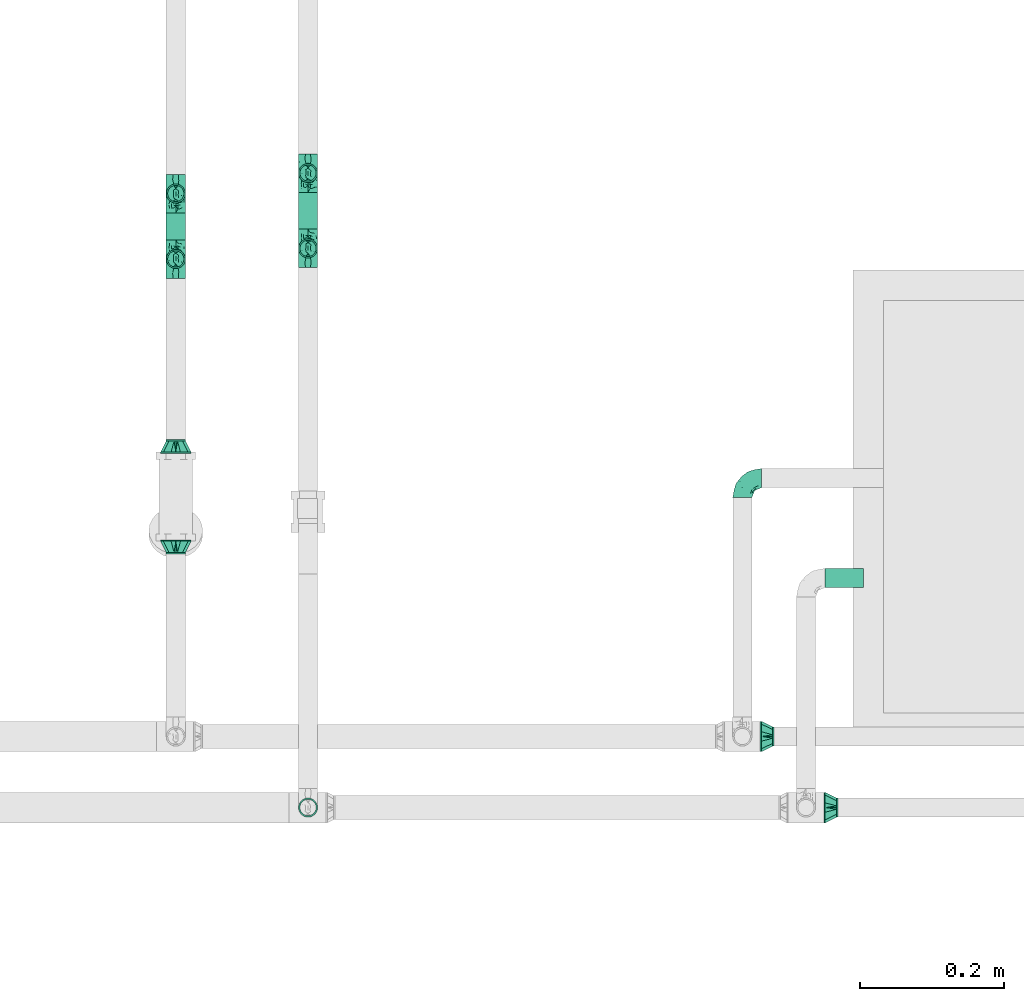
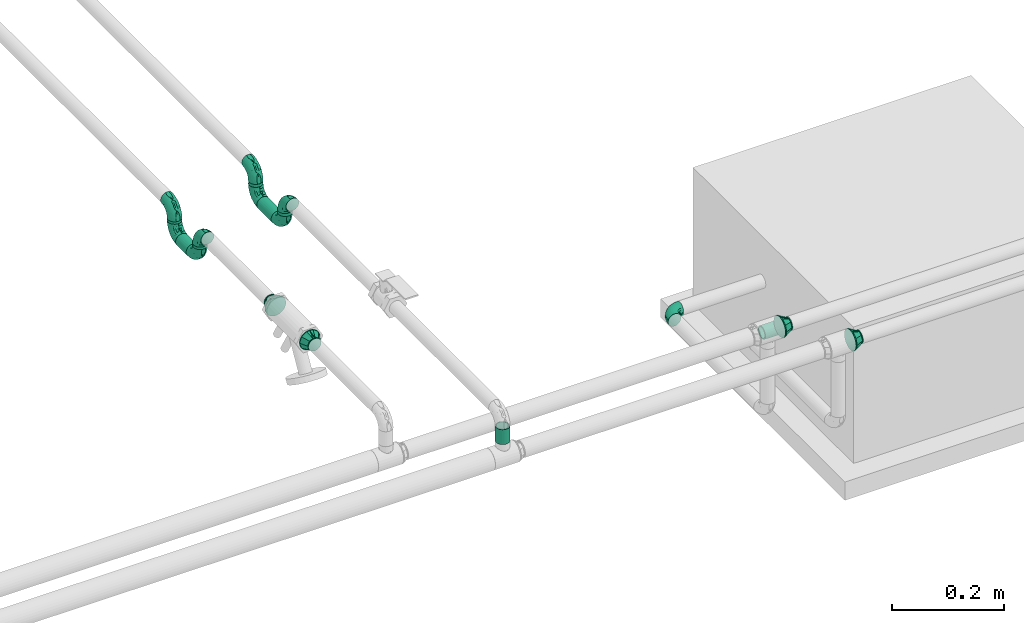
# One storey, part 20 of 35: 13 flow fittings, 8 flow segments.
"""IFC2X3 building model written with IfcOpenShell, lengths in millimetres."""

from ifc_helpers import new_model, entity, si_unit, converted_unit, derived_unit, direction, frame, origin_with_axes, origin_2d_with_axis, place, context, subcontext, project, spatial, hollow_circle, extrude, open_shell, surface_model, source, transform, mapped, type_object, element, save


model = new_model("IFC2X3")

# Units and contexts
model_context = context("Model", 3, precision=0.01, world=frame((0.0, 4.29681676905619e-09, 0.0)), true_north=direction((4.01073788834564e-13, 1.0)))
plan_context = context("Plan", 3, precision=0.01, world=frame((0.0, 4.29681676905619e-09, 0.0)), true_north=direction((4.01073788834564e-13, 1.0)))
body_context = subcontext(model_context, "Body", "Model", "MODEL_VIEW")
ifc_project = project(units=[converted_unit("PLANEANGLEUNIT", "DEGREE", entity("IfcPositiveLengthMeasure", 0.0174532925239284), si_unit("PLANEANGLEUNIT", "RADIAN"), dimensions=[0, 0, 0, 0, 0, 0, 0]), si_unit("AREAUNIT", "SQUARE_METRE"), si_unit("LENGTHUNIT", "METRE", prefix="MILLI"), si_unit("MASSUNIT", "GRAM", prefix="KILO"), si_unit("POWERUNIT", "WATT"), si_unit("PRESSUREUNIT", "PASCAL"), si_unit("FORCEUNIT", "NEWTON", prefix="KILO"), si_unit("ELECTRICVOLTAGEUNIT", "VOLT"), si_unit("ELECTRICCURRENTUNIT", "AMPERE"), si_unit("THERMODYNAMICTEMPERATUREUNIT", "DEGREE_CELSIUS"), si_unit("TIMEUNIT", "SECOND"), si_unit("VOLUMEUNIT", "CUBIC_METRE"), derived_unit("LINEARVELOCITYUNIT", [(si_unit("LENGTHUNIT", "METRE"), 1), (si_unit("TIMEUNIT", "SECOND"), -1)]), derived_unit("VOLUMETRICFLOWRATEUNIT", [(si_unit("VOLUMEUNIT", "CUBIC_METRE"), 1), (si_unit("TIMEUNIT", "SECOND"), -1)]), derived_unit("THERMALTRANSMITTANCEUNIT", [(si_unit("POWERUNIT", "WATT"), 1), (si_unit("THERMODYNAMICTEMPERATUREUNIT", "KELVIN"), -1), (si_unit("AREAUNIT", "SQUARE_METRE"), -1)]), derived_unit("SOUNDPRESSUREUNIT", [(si_unit("PRESSUREUNIT", "PASCAL"), 1)])], contexts=[model_context, plan_context])

# Site, building, storey
site_placement = place(None, frame((0.0, -4.29681676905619e-09, 0.0), z_axis=(0.0, 0.0, 1.0), x_axis=(1.0, 0.0, 0.0)))
site = spatial("IfcSite", under=ifc_project, at=site_placement, Name="ENGM", CompositionType="ELEMENT")
building_placement = place(site_placement, frame((0.0, 4.29681676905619e-09, 0.0), z_axis=(0.0, 0.0, 1.0), x_axis=(1.0, 0.0, 0.0)))
building = spatial("IfcBuilding", under=site, at=building_placement, Name="TH", CompositionType="ELEMENT")
storey_placement = place(building_placement, frame((0.0, 0.0, 210200.0), z_axis=(0.0, 0.0, 1.0), x_axis=(1.0, 0.0, 0.0)))
storey = spatial("IfcBuildingStorey", under=building, at=storey_placement, Name="Nivå F - 0,7 m", CompositionType="ELEMENT", Elevation=210200.0)

# Flow fittings
pipe_fitting_type_1 = type_object("IfcPipeFittingType", Name="magi_pipe_fe_elbow_short_001", PredefinedType="BEND")
shared_shape_1 = source(origin_with_axes(), body_context, "Body", "SurfaceModel", [
    surface_model("IfcShellBasedSurfaceModel", [(-26.8, 0.0, -13.4), (-26.8, -12.94341, -3.46818), (-26.8, 3.46818, -12.94341), (-26.8, 6.7, -11.60474), (-26.8, 9.47523, -9.47523), (-26.8, 11.60474, -6.7), (-26.8, 11.60474, 6.7), (-26.8, -9.47523, -9.47523), (-26.8, -6.7, -11.60474), (-26.8, -3.46818, -12.94341), (-26.8, -11.60474, -6.7), (-26.8, -13.4, 0.0), (-26.8, -12.94341, 3.46818), (-26.8, 12.94341, -3.46818), (-26.8, 12.94341, 3.46818), (-26.8, 3.46818, 12.94341), (-26.8, 6.7, 11.60474), (-26.8, 9.47523, 9.47523), (-26.8, -6.7, 11.60474), (-26.8, -11.60474, 6.7), (-26.8, -9.47523, 9.47523), (-26.8, -3.46818, 12.94341), (-26.8, 0.0, 13.4), (-26.8, 13.4, 0.0), (-3.46818, 26.8, -12.94341), (12.94341, 26.8, -3.46818), (0.0, 26.8, -13.4), (-9.47523, 26.8, -9.47523), (-6.7, 26.8, -11.60474), (-11.60474, 26.8, -6.7), (-11.60474, 26.8, 6.7), (6.7, 26.8, -11.60474), (9.47523, 26.8, -9.47523), (3.46818, 26.8, -12.94341), (11.60474, 26.8, -6.7), (12.94341, 26.8, 3.46818), (13.4, 26.8, 0.0), (-13.4, 26.8, 0.0), (-12.94341, 26.8, -3.46818), (-12.94341, 26.8, 3.46818), (-9.47523, 26.8, 9.47523), (-6.7, 26.8, 11.60474), (-3.46818, 26.8, 12.94341), (6.7, 26.8, 11.60474), (9.47523, 26.8, 9.47523), (11.60474, 26.8, 6.7), (3.46818, 26.8, 12.94341), (0.0, 26.8, 13.4), (-17.94383, -11.72186, 4.19396), (-19.61933, -10.40522, 7.51874), (-14.00394, -9.97131, 0.0), (-10.88146, -9.75217, 2.96415), (5.6402, 4.14256, 4.06277), (2.9355, 3.86758, 7.99817), (-0.16552, -0.70254, 6.90229), (-11.69279, -8.47867, 6.74741), (-3.60975, -5.23517, 4.12915), (-20.40197, -11.68565, 0.0), (6.07727, 10.7767, 9.16668), (7.71917, 17.5318, 9.98024), (3.23022, 10.34855, 11.14395), (-17.5318, -7.71917, 9.98024), (-19.6814, -5.06542, 12.05518), (-20.47091, -1.77513, 13.17083), (-18.76435, 2.05404, 13.37716), (-10.34855, -3.23022, 11.14395), (-13.34095, -0.12025, 12.98799), (-20.6562, 5.25542, 12.65822), (-21.01515, 11.15223, 8.78653), (-19.1981, 14.0055, 6.12639), (-23.45804, 12.58298, 5.55254), (-13.79572, 19.62699, 6.0655), (-4.65712, 13.17755, 13.37596), (-9.92557, 9.92557, 13.07441), (-7.97904, 5.85569, 13.33097), (-14.12498, 14.96497, 9.49183), (-23.18377, 8.11481, 10.91864), (-3.49778, 8.97497, 13.15743), (-6.65819, 2.45826, 12.5129), (-1.36893, 7.23965, 12.31444), (-22.3163, 13.71444, 3.37662), (-20.76788, 15.89859, 0.0), (-5.00198, 23.11411, 12.55149), (-1.83653, 20.04451, 13.36709), (5.06542, 19.6814, 12.05518), (-4.60225, -3.19632, 8.30444), (-2.39362, 2.39362, 10.95564), (1.77513, 20.47091, 13.17083), (10.40522, 19.61933, 7.51874), (8.47867, 11.69279, 6.74741), (11.72186, 17.94383, 4.19396), (-10.7767, -6.07727, 9.16668), (-14.71477, 20.20527, 3.11661), (-18.32912, 15.92283, 3.19527), (9.75217, 10.88146, 2.96415), (9.97131, 14.00394, 0.0), (11.68565, 20.40197, 0.0), (-17.32477, 17.32477, 0.0), (8.01422, 6.7, 0.0), (-11.0099, 17.80242, 10.25412), (-8.46783, 20.75346, 11.10693), (-11.06207, 21.36651, 8.74797), (-10.13559, 14.48567, 11.94159), (-5.79525, 18.15733, 12.76163), (-14.31139, 12.02432, 11.13575), (-6.7, -8.01422, 0.0), (-14.72492, 5.73985, 13.1602), (-13.14892, 3.28357, 13.39428), (-14.24576, 9.09225, 12.39421), (-7.80572, 13.90987, 12.83655), (0.12025, 13.34095, 12.98799), (-18.45241, 9.09615, 11.28418), (-1.02036, 0.84565, 9.15855), (-3.66591, -4.13183, 6.30134), (-3.02144, -4.33567, 0.0), (1.56761, -1.1228, 3.23127), (-15.89859, 20.76788, 0.0), (4.33567, 3.02144, 0.0), (0.65711, -0.65711, 0.0), (-21.21323, 1.69434, -13.35639), (-11.59215, 19.61477, -8.94181), (-19.9553, -12.05444, -4.41231), (-20.61911, 5.26132, -12.65979), (-18.29002, 15.89425, -3.37935), (-10.94714, -3.38176, -11.24231), (-11.6358, -0.16715, -12.74497), (-5.38395, -0.22423, -10.97991), (-19.45447, 8.78609, -11.20697), (-21.18665, 11.10723, -8.76769), (8.05635, 19.80434, -10.14754), (-16.16073, 12.27967, -10.10626), (-10.65974, -9.81032, -2.24682), (-4.63434, -6.26604, -3.21731), (-12.41035, 15.57424, -10.31822), (-9.54276, 16.38525, -11.6371), (-12.38435, 12.38435, -11.76567), (-1.18054, -2.52878, -5.66699), (1.17703, 2.36499, -8.51656), (4.94456, 3.94062, -5.27361), (-13.23013, 7.7548, -12.95755), (-18.92609, -10.30887, -7.4546), (-19.80434, -8.05635, -10.14754), (-5.46999, 19.49566, -12.70683), (12.05444, 19.9553, -4.41231), (-22.63124, -5.28269, -12.19553), (-11.57403, -7.91736, -7.4927), (-10.00514, -5.4662, -9.37392), (0.56412, 6.29454, -11.17498), (0.16715, 11.6358, -12.74497), (2.76952, 11.43973, -11.70622), (-22.71135, 13.83144, -2.294), (-13.13887, 21.26515, -5.84046), (-14.02683, 21.74629, -2.98452), (10.30887, 18.92609, -7.4546), (-4.73052, 4.73052, -12.6532), (-16.28385, 15.93209, -6.57302), (-1.69434, 21.21323, -13.35639), (-8.4106, 21.03687, -11.08508), (1.68957, 19.74249, -13.15499), (5.28269, 22.63124, -12.19553), (-19.74249, -1.68957, -13.15499), (-16.96978, -4.62448, -11.91765), (-3.16773, 14.76219, -13.39711), (-7.24575, 7.81916, -13.39239), (-7.92886, 12.7032, -13.00116), (-6.57993, -6.26304, -6.05124), (9.46363, 9.95483, -2.39006), (6.59847, 4.89531, -2.6225), (0.29079, -2.47661, -2.876), (-21.42347, 13.17132, -5.65321), (9.35918, 11.66841, -5.08525), (8.33374, 12.94014, -7.69724), (5.4662, 10.00514, -9.37392), (4.62448, 16.96978, -11.91765), (-3.89324, -2.60816, -8.35445), (5.97121, 7.49007, -7.29975), (-14.76219, 3.16773, -13.39711), (-15.36238, 22.06238, 0.0), (-11.66841, -9.35918, -5.08525), (3.63632, 1.19488, -3.35093), (-14.94382, 15.17624, -8.6945)], [open_shell([[[0, 1, 2]], [[3, 2, 4]], [[5, 2, 1]], [[4, 2, 5]], [[5, 1, 6]], [[7, 1, 8]], [[0, 9, 8]], [[10, 1, 7]], [[8, 1, 0]], [[11, 12, 1]], [[13, 5, 14]], [[5, 6, 14]], [[1, 15, 6]], [[15, 16, 17]], [[6, 15, 17]], [[1, 18, 15]], [[19, 20, 12]], [[18, 12, 20]], [[18, 21, 15]], [[18, 1, 12]], [[15, 21, 22]], [[14, 23, 13]], [[24, 25, 26]], [[27, 24, 28]], [[25, 24, 29]], [[29, 24, 27]], [[30, 25, 29]], [[31, 25, 32]], [[31, 33, 26]], [[32, 25, 34]], [[26, 25, 31]], [[25, 35, 36]], [[37, 29, 38]], [[39, 30, 29]], [[30, 40, 25]], [[40, 41, 42]], [[42, 25, 40]], [[43, 25, 42]], [[35, 44, 45]], [[44, 35, 43]], [[42, 46, 43]], [[35, 25, 43]], [[47, 46, 42]], [[39, 29, 37]], [[48, 49, 19]], [[48, 50, 51]], [[52, 53, 54]], [[55, 51, 56]], [[49, 20, 19]], [[57, 48, 12]], [[58, 59, 60]], [[61, 18, 20]], [[61, 62, 18]], [[22, 63, 64]], [[62, 65, 66]], [[59, 44, 43]], [[22, 21, 63]], [[67, 16, 15]], [[68, 69, 70]], [[30, 39, 71]], [[72, 73, 74]], [[69, 68, 75]], [[22, 64, 15]], [[16, 76, 17]], [[6, 17, 68]], [[77, 78, 79]], [[80, 81, 23]], [[42, 82, 83]], [[43, 84, 59]], [[85, 86, 65]], [[46, 47, 87]], [[88, 89, 90]], [[91, 65, 61]], [[47, 42, 83]], [[71, 92, 93]], [[90, 94, 95]], [[84, 43, 46]], [[88, 90, 45]], [[59, 84, 60]], [[35, 45, 90]], [[75, 71, 69]], [[18, 62, 21]], [[90, 96, 35]], [[97, 81, 93]], [[94, 98, 95]], [[92, 97, 93]], [[50, 48, 57]], [[70, 14, 6]], [[99, 100, 101]], [[40, 101, 100]], [[41, 40, 100]], [[102, 103, 100]], [[103, 72, 83]], [[82, 100, 103]], [[82, 42, 41]], [[99, 104, 102]], [[23, 14, 80]], [[67, 15, 64]], [[51, 50, 105]], [[48, 19, 12]], [[49, 55, 61]], [[45, 44, 88]], [[89, 52, 94]], [[106, 107, 74]], [[108, 67, 106]], [[40, 30, 101]], [[103, 102, 109]], [[103, 109, 72]], [[87, 83, 110]], [[76, 68, 17]], [[68, 111, 104]], [[65, 62, 61]], [[63, 62, 66]], [[91, 61, 55]], [[65, 86, 78]], [[87, 84, 46]], [[110, 79, 60]], [[110, 60, 84]], [[86, 112, 60]], [[55, 49, 48]], [[61, 20, 49]], [[44, 59, 88]], [[89, 88, 59]], [[106, 67, 64]], [[76, 67, 111]], [[53, 52, 89]], [[112, 86, 85]], [[56, 113, 55]], [[112, 54, 53]], [[58, 89, 59]], [[56, 51, 105]], [[114, 115, 56]], [[14, 70, 80]], [[69, 71, 93]], [[37, 116, 92]], [[92, 116, 97]], [[30, 71, 101]], [[75, 101, 71]], [[99, 102, 100]], [[108, 104, 111]], [[106, 74, 73]], [[110, 83, 72]], [[78, 74, 66]], [[72, 74, 77]], [[83, 87, 47]], [[84, 87, 110]], [[62, 63, 21]], [[64, 63, 66]], [[12, 11, 57]], [[96, 90, 95]], [[96, 36, 35]], [[115, 117, 52]], [[56, 105, 114]], [[55, 48, 51]], [[89, 94, 90]], [[52, 98, 94]], [[106, 64, 107]], [[108, 106, 73]], [[102, 108, 73]], [[67, 108, 111]], [[102, 104, 108]], [[68, 104, 75]], [[64, 66, 107]], [[66, 74, 107]], [[65, 78, 66]], [[79, 78, 86]], [[60, 79, 86]], [[77, 79, 110]], [[72, 77, 110]], [[78, 77, 74]], [[67, 76, 16]], [[68, 76, 111]], [[100, 82, 41]], [[83, 82, 103]], [[68, 70, 6]], [[80, 69, 93]], [[69, 80, 70]], [[80, 93, 81]], [[55, 85, 91]], [[85, 65, 91]], [[60, 53, 58]], [[53, 89, 58]], [[54, 112, 85]], [[60, 112, 53]], [[85, 113, 54]], [[113, 115, 54]], [[55, 113, 85]], [[115, 113, 56]], [[71, 39, 92]], [[115, 114, 118]], [[37, 92, 39]], [[101, 75, 99]], [[99, 75, 104]], [[102, 73, 109]], [[72, 109, 73]], [[54, 115, 52]], [[117, 115, 118]], [[117, 98, 52]], [[2, 119, 0]], [[29, 27, 120]], [[121, 57, 1]], [[3, 122, 2]], [[97, 123, 81]], [[124, 125, 126]], [[127, 4, 128]], [[32, 129, 31]], [[127, 128, 130]], [[131, 132, 105]], [[133, 134, 135]], [[127, 3, 4]], [[136, 137, 138]], [[139, 122, 127]], [[4, 5, 128]], [[10, 140, 121]], [[141, 140, 7]], [[24, 142, 28]], [[95, 143, 96]], [[144, 8, 9]], [[145, 141, 146]], [[25, 36, 96]], [[147, 148, 149]], [[140, 10, 7]], [[23, 81, 150]], [[130, 133, 135]], [[151, 152, 38]], [[153, 34, 143]], [[147, 154, 148]], [[38, 29, 151]], [[120, 155, 151]], [[32, 153, 129]], [[26, 156, 24]], [[24, 156, 142]], [[143, 34, 25]], [[27, 28, 157]], [[123, 152, 155]], [[158, 33, 159]], [[144, 160, 161]], [[122, 3, 127]], [[148, 162, 158]], [[157, 28, 142]], [[162, 163, 164]], [[159, 33, 31]], [[165, 136, 132]], [[34, 153, 32]], [[166, 98, 167]], [[160, 9, 0]], [[161, 160, 125]], [[95, 166, 143]], [[50, 131, 105]], [[121, 1, 10]], [[168, 114, 132]], [[150, 169, 13]], [[167, 98, 117]], [[33, 158, 26]], [[164, 142, 162]], [[133, 157, 134]], [[7, 8, 141]], [[165, 145, 146]], [[170, 171, 153]], [[129, 172, 173]], [[126, 137, 174]], [[175, 137, 172]], [[148, 158, 173]], [[156, 158, 162]], [[149, 172, 147]], [[148, 154, 163]], [[119, 160, 0]], [[176, 163, 125]], [[176, 125, 160]], [[125, 154, 126]], [[169, 128, 5]], [[127, 130, 135]], [[139, 127, 135]], [[119, 122, 176]], [[120, 151, 29]], [[152, 97, 177]], [[142, 164, 134]], [[120, 27, 157]], [[152, 37, 38]], [[81, 123, 150]], [[123, 155, 169]], [[152, 123, 97]], [[140, 178, 121]], [[121, 178, 131]], [[144, 141, 8]], [[146, 141, 161]], [[25, 96, 143]], [[170, 153, 143]], [[129, 153, 171]], [[159, 129, 173]], [[137, 147, 172]], [[126, 154, 147]], [[172, 171, 175]], [[174, 137, 136]], [[137, 126, 147]], [[126, 146, 124]], [[117, 118, 179]], [[179, 138, 167]], [[128, 169, 155]], [[5, 13, 169]], [[57, 121, 50]], [[57, 11, 1]], [[122, 119, 2]], [[160, 119, 176]], [[158, 156, 26]], [[142, 156, 162]], [[162, 148, 163]], [[139, 135, 164]], [[125, 163, 154]], [[139, 163, 176]], [[163, 139, 164]], [[122, 139, 176]], [[155, 180, 128]], [[180, 120, 133]], [[180, 133, 130]], [[157, 133, 120]], [[142, 134, 157]], [[164, 135, 134]], [[128, 180, 130]], [[120, 180, 155]], [[152, 151, 155]], [[37, 152, 177]], [[169, 150, 123]], [[23, 150, 13]], [[121, 131, 50]], [[178, 165, 132]], [[178, 132, 131]], [[168, 132, 136]], [[145, 165, 178]], [[174, 165, 146]], [[178, 140, 145]], [[141, 145, 140]], [[179, 136, 138]], [[170, 166, 167]], [[168, 179, 118]], [[170, 167, 138]], [[143, 166, 170]], [[95, 98, 166]], [[117, 179, 167]], [[136, 179, 168]], [[129, 159, 31]], [[158, 159, 173]], [[160, 144, 9]], [[141, 144, 161]], [[175, 170, 138]], [[129, 171, 172]], [[170, 175, 171]], [[137, 175, 138]], [[148, 173, 149]], [[172, 149, 173]], [[165, 174, 136]], [[126, 174, 146]], [[146, 161, 124]], [[125, 124, 161]], [[114, 168, 118]], [[114, 105, 132]]])]),
])
for number, where, z_axis, x_axis, name in (
    (1, (900826.07965, 481655.36097, 2800.0), (0.0, 0.0, 1.0), (-1.0, 0.0, 0.0), "magi_pipe_fe_elbow_short_001"),
    (2, (900037.00487, 482051.61097, 3070.04999999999), (1.0, 0.0, 0.0), (0.0, -1.0, 0.0), "magi_pipe_fe_elbow_short_001"),
    (3, (900037.00487, 482051.61097, 3011.29999999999), (-1.0, 0.0, 0.0), (0.0, 3.999999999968e-06, -0.999999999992), "magi_pipe_fe_elbow_short_001"),
    (4, (900037.00487, 481960.36097, 3011.29999999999), (-1.0, 0.0, 0.0), (0.0, -1.0, 0.0), "magi_pipe_fe_elbow_short_001"),
    (5, (900037.00487, 481960.36097, 3070.04999999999), (1.0, 0.0, 0.0), (0.0, 0.0, 1.0), "magi_pipe_fe_elbow_short_001"),
    (6, (900221.2, 482080.17011, 3070.04999999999), (1.0, 0.0, 0.0), (0.0, -1.0, 0.0), "magi_pipe_fe_elbow_short_001"),
    (7, (900221.2, 482080.17011, 3010.04999999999), (-1.0, 0.0, 0.0), (0.0, 3.999999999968e-06, -0.999999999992), "magi_pipe_fe_elbow_short_001"),
    (8, (900221.2, 481975.17011, 3010.04999999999), (-1.0, 0.0, 0.0), (0.0, -1.0, 0.0), "magi_pipe_fe_elbow_short_001"),
    (9, (900221.2, 481975.17011, 3070.04999999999), (1.0, 0.0, 0.0), (0.0, 0.0, 1.0), "magi_pipe_fe_elbow_short_001"),
):
    element("IfcFlowFitting", number, at=place(storey_placement, frame(where, z_axis=z_axis, x_axis=x_axis)), inside=storey, type_object=pipe_fitting_type_1, Name=name, context=body_context, shape_type="MappedRepresentation", body=[
        mapped(shared_shape_1, transform((0.0, 0.0, 0.0), scale=1.0)),
    ])
pipe_fitting_type_2 = type_object("IfcPipeFittingType", Name="magi_pipe_fe_reducer_centric_short_NOR", PredefinedType="TRANSITION")
shared_shape_2 = source(origin_with_axes(), body_context, "Body", "SurfaceModel", [
    surface_model("IfcShellBasedSurfaceModel", [(-2.0, 0.0, 21.2), (-2.0, 5.48696, 20.47763), (-2.0, 10.6, 18.35974), (-2.0, 14.99066, 14.99066), (-2.0, 18.35974, 10.6), (-2.0, 20.47763, 5.48696), (-2.0, -21.2, 0.0), (-2.0, -14.99066, -14.99066), (-2.0, -5.48696, 20.47763), (-2.0, -14.99066, 14.99066), (-2.0, -10.6, 18.35974), (-2.0, -18.35974, 10.6), (-2.0, -20.47763, 5.48696), (-2.0, 20.47763, -5.48696), (-2.0, 10.6, -18.35974), (-2.0, 14.99066, -14.99066), (-2.0, 18.35974, -10.6), (-2.0, 5.48696, -20.47763), (-2.0, 0.0, -21.2), (-2.0, -18.35974, -10.6), (-2.0, -20.47763, -5.48696), (-2.0, -10.6, -18.35974), (-2.0, -5.48696, -20.47763), (-2.0, 21.2, 0.0), (0.0, 10.6, -18.35974), (0.0, 0.0, -21.2), (0.0, 5.48696, -20.47763), (0.0, 20.47763, -5.48696), (0.0, 14.99066, -14.99066), (0.0, -21.2, 0.0), (0.0, -14.99066, -14.99066), (0.0, 18.35974, -10.6), (0.0, -10.6, -18.35974), (0.0, -5.48696, -20.47763), (0.0, -18.35974, -10.6), (0.0, -20.47763, -5.48696), (0.0, -18.35974, 10.6), (0.0, 21.2, 0.0), (0.0, 20.47763, 5.48696), (0.0, 18.35974, 10.6), (0.0, 14.99066, 14.99066), (0.0, 0.0, 21.2), (0.0, 10.6, 18.35974), (0.0, 5.48696, 20.47763), (0.0, -14.99066, 14.99066), (0.0, -20.47763, 5.48696), (0.0, -5.48696, 20.47763), (0.0, -10.6, 18.35974), (0.0, 6.55116, 20.1624), (0.0, 17.15116, 12.46105), (0.0, -17.15116, 12.46105), (0.0, -6.55116, 20.1624), (0.0, 6.55116, -20.1624), (0.0, -6.55116, -20.1624), (0.0, -17.15116, -12.46105), (0.0, 17.15116, -12.46105), (17.6, 12.94341, -3.46818), (17.6, 3.46818, -12.94341), (17.6, 6.7, -11.60474), (17.6, 9.47523, -9.47523), (17.6, -6.7, -11.60474), (17.6, -12.94341, 3.46818), (17.6, 11.60474, -6.7), (17.6, 0.0, -13.4), (17.6, -3.46818, -12.94341), (17.6, -9.47523, -9.47523), (17.6, -12.94341, -3.46818), (17.6, -11.60474, -6.7), (17.6, 13.4, 0.0), (17.6, 12.94341, 3.46818), (17.6, 11.60474, 6.7), (17.6, 9.47523, 9.47523), (17.6, 0.0, 13.4), (17.6, 6.7, 11.60474), (17.6, 3.46818, 12.94341), (17.6, -6.7, 11.60474), (17.6, -9.47523, 9.47523), (17.6, -11.60474, 6.7), (17.6, -13.4, 0.0), (17.6, -3.46818, 12.94341), (15.6, 0.0, 13.4), (15.6, 3.46818, 12.94341), (15.6, 6.7, 11.60474), (15.6, -3.46818, 12.94341), (15.6, 9.47523, 9.47523), (15.6, 11.60474, 6.7), (15.6, 12.94341, 3.46818), (15.6, -12.94341, 3.46818), (15.6, -9.47523, 9.47523), (15.6, -6.7, 11.60474), (15.6, -11.60474, 6.7), (15.6, -12.94341, -3.46818), (15.6, -13.4, 0.0), (15.6, -6.7, -11.60474), (15.6, 12.94341, -3.46818), (15.6, 9.47523, -9.47523), (15.6, 11.60474, -6.7), (15.6, 6.7, -11.60474), (15.6, 3.46818, -12.94341), (15.6, -9.47523, -9.47523), (15.6, -11.60474, -6.7), (15.6, 0.0, -13.4), (15.6, -3.46818, -12.94341), (15.6, 13.4, 0.0), (15.6, -10.45642, -7.10642), (15.6, 11.43761, -4.73762), (0.0, 19.17558, -6.23052), (0.0, 11.85116, -16.31172), (0.0, 14.50116, -14.38638), (15.6, -11.43761, -4.73762), (0.0, -19.17558, -6.23052), (0.0, -18.16337, -9.34579), (15.6, 4.73762, -11.43761), (0.0, 0.0, -20.1624), (15.6, -2.36881, -12.41881), (15.6, 2.36881, -12.41881), (15.6, 7.10642, -10.45642), (15.6, 10.45642, -7.10642), (15.6, -12.41881, -2.36881), (0.0, -11.85116, -16.31172), (15.6, -4.73762, -11.43761), (15.6, -7.10642, -10.45642), (15.6, 12.41881, -2.36881), (15.6, 10.45642, 7.10642), (15.6, -11.43761, 4.73762), (0.0, -19.17558, 6.23052), (0.0, -11.85116, 16.31172), (0.0, -14.50116, 14.38638), (15.6, 11.43761, 4.73762), (0.0, 19.17558, 6.23052), (0.0, 18.16337, 9.34579), (15.6, -4.73762, 11.43761), (0.0, 0.0, 20.1624), (15.6, 2.36881, 12.41881), (15.6, -2.36881, 12.41881), (15.6, -7.10642, 10.45642), (15.6, -10.45642, 7.10642), (15.6, 12.41881, 2.36881), (0.0, 11.85116, 16.31172), (15.6, 4.73762, 11.43761), (15.6, 7.10642, 10.45642), (15.6, -12.41881, 2.36881)], [open_shell([[[0, 1, 2]], [[0, 2, 3]], [[3, 4, 5]], [[3, 5, 0]], [[6, 0, 7]], [[8, 9, 10]], [[8, 0, 9]], [[11, 6, 12]], [[9, 0, 11]], [[0, 6, 11]], [[0, 5, 7]], [[5, 13, 14]], [[15, 13, 16]], [[7, 5, 14]], [[14, 13, 15]], [[17, 18, 14]], [[6, 19, 20]], [[7, 19, 6]], [[21, 18, 22]], [[21, 7, 14]], [[18, 21, 14]], [[13, 5, 23]], [[24, 25, 26]], [[27, 24, 28]], [[29, 30, 24]], [[27, 28, 31]], [[27, 29, 24]], [[25, 32, 33]], [[25, 24, 32]], [[34, 29, 35]], [[32, 24, 30]], [[34, 30, 29]], [[36, 27, 37]], [[38, 39, 40]], [[38, 40, 41]], [[42, 43, 41]], [[42, 41, 40]], [[38, 41, 44]], [[29, 36, 45]], [[27, 36, 29]], [[44, 46, 47]], [[36, 38, 44]], [[41, 46, 44]], [[36, 37, 38]], [[20, 35, 6]], [[19, 34, 20]], [[32, 7, 21]], [[19, 7, 30]], [[33, 21, 22]], [[20, 34, 35]], [[35, 29, 6]], [[33, 32, 21]], [[30, 7, 32]], [[30, 34, 19]], [[25, 33, 22]], [[22, 18, 25]], [[17, 26, 18]], [[14, 24, 17]], [[31, 15, 16]], [[14, 15, 28]], [[27, 16, 13]], [[14, 28, 24]], [[24, 26, 17]], [[37, 27, 13]], [[31, 16, 27]], [[31, 28, 15]], [[23, 37, 13]], [[18, 26, 25]], [[5, 38, 23]], [[4, 39, 5]], [[42, 3, 2]], [[4, 3, 40]], [[43, 2, 1]], [[5, 39, 38]], [[38, 37, 23]], [[43, 42, 2]], [[40, 3, 42]], [[40, 39, 4]], [[41, 43, 1]], [[1, 0, 41]], [[8, 46, 0]], [[10, 47, 8]], [[36, 9, 11]], [[10, 9, 44]], [[45, 11, 12]], [[10, 44, 47]], [[47, 46, 8]], [[29, 45, 12]], [[36, 11, 45]], [[36, 44, 9]], [[6, 29, 12]], [[0, 46, 41]], [[48, 49, 50]], [[48, 50, 51]], [[50, 49, 29]], [[49, 52, 29]], [[53, 54, 29]], [[29, 52, 53]], [[49, 37, 55]], [[52, 49, 55]], [[56, 57, 58]], [[56, 58, 59]], [[60, 57, 61]], [[56, 59, 62]], [[57, 56, 61]], [[63, 60, 64]], [[63, 57, 60]], [[65, 66, 67]], [[61, 66, 65]], [[65, 60, 61]], [[56, 68, 61]], [[69, 70, 71]], [[69, 71, 72]], [[73, 74, 72]], [[73, 72, 71]], [[69, 72, 75]], [[61, 76, 77]], [[78, 66, 61]], [[61, 75, 76]], [[61, 69, 75]], [[79, 75, 72]], [[61, 68, 69]], [[80, 81, 82]], [[83, 80, 82]], [[84, 85, 86]], [[82, 84, 83]], [[86, 87, 84]], [[83, 88, 89]], [[88, 83, 87]], [[88, 87, 90]], [[83, 84, 87]], [[87, 91, 92]], [[87, 86, 93]], [[94, 95, 86]], [[95, 94, 96]], [[97, 93, 86]], [[86, 95, 97]], [[93, 97, 98]], [[91, 99, 100]], [[91, 87, 99]], [[93, 101, 102]], [[87, 93, 99]], [[98, 101, 93]], [[103, 94, 86]], [[91, 66, 92]], [[100, 67, 91]], [[60, 99, 93]], [[100, 99, 65]], [[64, 93, 102]], [[91, 67, 66]], [[66, 78, 92]], [[64, 60, 93]], [[65, 99, 60]], [[65, 67, 100]], [[63, 64, 102]], [[102, 101, 63]], [[98, 57, 101]], [[97, 58, 98]], [[62, 95, 96]], [[97, 95, 59]], [[56, 96, 94]], [[97, 59, 58]], [[58, 57, 98]], [[68, 56, 94]], [[62, 96, 56]], [[62, 59, 95]], [[103, 68, 94]], [[101, 57, 63]], [[86, 69, 103]], [[85, 70, 86]], [[73, 84, 82]], [[85, 84, 71]], [[74, 82, 81]], [[86, 70, 69]], [[69, 68, 103]], [[74, 73, 82]], [[71, 84, 73]], [[71, 70, 85]], [[72, 74, 81]], [[81, 80, 72]], [[83, 79, 80]], [[89, 75, 83]], [[77, 88, 90]], [[89, 88, 76]], [[61, 90, 87]], [[89, 76, 75]], [[75, 79, 83]], [[78, 61, 87]], [[77, 90, 61]], [[77, 76, 88]], [[92, 78, 87]], [[80, 79, 72]], [[80, 88, 103]], [[103, 84, 80]], [[88, 101, 103]], [[101, 88, 99]], [[95, 103, 101]], [[99, 88, 92]], [[54, 99, 104]], [[105, 55, 106]], [[95, 107, 108]], [[109, 110, 111]], [[52, 107, 112]], [[113, 114, 53]], [[113, 115, 101]], [[116, 112, 107]], [[55, 105, 117]], [[95, 108, 55]], [[29, 118, 92]], [[99, 54, 119]], [[119, 120, 121]], [[29, 110, 118]], [[52, 115, 113]], [[37, 122, 106]], [[114, 120, 53]], [[114, 113, 101]], [[52, 112, 115]], [[122, 37, 103]], [[109, 118, 110]], [[54, 104, 111]], [[104, 109, 111]], [[95, 55, 117]], [[120, 119, 53]], [[121, 99, 119]], [[122, 105, 106]], [[107, 95, 116]], [[49, 84, 123]], [[124, 50, 125]], [[88, 126, 127]], [[128, 129, 130]], [[51, 126, 131]], [[132, 133, 48]], [[132, 134, 80]], [[135, 131, 126]], [[50, 124, 136]], [[88, 127, 50]], [[37, 137, 103]], [[84, 49, 138]], [[138, 139, 140]], [[37, 129, 137]], [[51, 134, 132]], [[29, 141, 125]], [[133, 139, 48]], [[133, 132, 80]], [[51, 131, 134]], [[141, 29, 92]], [[128, 137, 129]], [[49, 123, 130]], [[123, 128, 130]], [[88, 50, 136]], [[139, 138, 48]], [[140, 84, 138]], [[141, 124, 125]], [[126, 88, 135]]])]),
])
for number, where, z_axis, x_axis, name in (
    (10, (900037.00487, 481567.33362, 3070.04999999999), (0.0, 0.0, 1.0), (0.0, -1.0, 0.0), "magi_pipe_fe_reducer_centric_short_NOR"),
    (11, (900037.00487, 481691.33362, 3070.04999999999), (0.0, 0.0, 1.0), (0.0, 1.0, 0.0), "magi_pipe_fe_reducer_centric_short_NOR"),
    (12, (900941.58846, 481196.37011, 2978.79999999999), (0.0, 0.0, 1.0), (1.0, 0.0, 0.0), "magi_pipe_fe_reducer_centric_short_NOR"),
    (13, (900852.87965, 481295.36097, 2978.79999999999), (0.0, 0.0, 1.0), (1.0, 0.0, 0.0), "magi_pipe_fe_reducer_centric_short_NOR"),
):
    element("IfcFlowFitting", number, at=place(storey_placement, frame(where, z_axis=z_axis, x_axis=x_axis)), inside=storey, type_object=pipe_fitting_type_2, Name=name, context=body_context, shape_type="MappedRepresentation", body=[
        mapped(shared_shape_2, transform((0.0, 0.0, 0.0), scale=1.0)),
    ])

# Flow segments
pipe_segment_type = type_object("IfcPipeSegmentType", Name="Stålrør normaltykke", PredefinedType="RIGIDSEGMENT")
shared_shape_3 = source(origin_with_axes(), body_context, "Body", "SweptSolid", [
    extrude(hollow_circle(Radius=13.3, WallThickness=2.0, at=origin_2d_with_axis()), frame((0.0, 0.0, 0.0), z_axis=(1.0, 0.0, 0.0), x_axis=(0.0, 1.0, 0.0)), (0.0, 0.0, 1.0), 53.2),
])
flow_segment_1_placement = place(storey_placement, frame((900941.58846, 481516.37011, 2800.0), z_axis=(0.0, 0.0, 1.0), x_axis=(1.0, 0.0, 0.0)))
element("IfcFlowSegment", 14, at=flow_segment_1_placement, inside=storey, type_object=pipe_segment_type, Name="Stålrør normaltykke", context=body_context, shape_type="MappedRepresentation", body=[
    mapped(shared_shape_3, transform((0.0, 0.0, 0.0), scale=1.0)),
])
shared_shape_4 = source(origin_with_axes(), body_context, "Body", "SweptSolid", [
    extrude(hollow_circle(Radius=13.3, WallThickness=2.0, at=origin_2d_with_axis()), frame((0.0, 0.0, 0.0), z_axis=(1.0, 0.0, 0.0), x_axis=(0.0, 1.0, 0.0)), (0.0, 0.0, 1.0), 32.6),
])
flow_segment_2_placement = place(storey_placement, frame((900221.2, 481196.37011, 3010.60000000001), z_axis=(0.0, -1.0, 0.0), x_axis=(0.0, 0.0, 1.0)))
element("IfcFlowSegment", 15, at=flow_segment_2_placement, inside=storey, type_object=pipe_segment_type, Name="Stålrør normaltykke", context=body_context, shape_type="MappedRepresentation", body=[
    mapped(shared_shape_4, transform((0.0, 0.0, 0.0), scale=1.0)),
])
shared_shape_5 = source(origin_with_axes(), body_context, "Body", "SweptSolid", [
    extrude(hollow_circle(Radius=13.3, WallThickness=2.0, at=origin_2d_with_axis()), frame((0.0, 0.0, 0.0), z_axis=(1.0, 0.0, 0.0), x_axis=(0.0, 1.0, 0.0)), (0.0, 0.0, 1.0), 5.2),
])
for number, where, z_axis, x_axis in (
    (16, (900037.00487, 482051.61097, 3043.25), (-1.0, 0.0, 0.0), (0.0, 3.999999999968e-06, -0.999999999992)),
    (17, (900037.00487, 481960.36097, 3038.10000000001), (-1.0, 0.0, 0.0), (0.0, 0.0, 1.0)),
):
    element("IfcFlowSegment", number, at=place(storey_placement, frame(where, z_axis=z_axis, x_axis=x_axis)), inside=storey, type_object=pipe_segment_type, Name="Stålrør normaltykke", context=body_context, shape_type="MappedRepresentation", body=[
        mapped(shared_shape_5, transform((0.0, 0.0, 0.0), scale=1.0)),
    ])
shared_shape_6 = source(origin_with_axes(), body_context, "Body", "SweptSolid", [
    extrude(hollow_circle(Radius=13.3, WallThickness=2.0, at=origin_2d_with_axis()), frame((0.0, 0.0, 0.0), z_axis=(1.0, 0.0, 0.0), x_axis=(0.0, 1.0, 0.0)), (0.0, 0.0, 1.0), 37.6),
])
flow_segment_3_placement = place(storey_placement, frame((900037.00487, 482024.81097, 3011.29999999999), z_axis=(0.0, 0.0, 1.0), x_axis=(0.0, -1.0, 0.0)))
element("IfcFlowSegment", 18, at=flow_segment_3_placement, inside=storey, type_object=pipe_segment_type, Name="Stålrør normaltykke", context=body_context, shape_type="MappedRepresentation", body=[
    mapped(shared_shape_6, transform((0.0, 0.0, 0.0), scale=1.0)),
])
shared_shape_7 = source(origin_with_axes(), body_context, "Body", "SweptSolid", [
    extrude(hollow_circle(Radius=13.3, WallThickness=2.0, at=origin_2d_with_axis()), frame((0.0, 0.0, 0.0), z_axis=(1.0, 0.0, 0.0), x_axis=(0.0, 1.0, 0.0)), (0.0, 0.0, 1.0), 6.4),
])
for number, where, z_axis, x_axis in (
    (19, (900221.2, 482080.17011, 3043.25), (-1.0, 0.0, 0.0), (0.0, 3.999999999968e-06, -0.999999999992)),
    (20, (900221.2, 481975.17011, 3036.85000000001), (-1.0, 0.0, 0.0), (0.0, 0.0, 1.0)),
):
    element("IfcFlowSegment", number, at=place(storey_placement, frame(where, z_axis=z_axis, x_axis=x_axis)), inside=storey, type_object=pipe_segment_type, Name="Stålrør normaltykke", context=body_context, shape_type="MappedRepresentation", body=[
        mapped(shared_shape_7, transform((0.0, 0.0, 0.0), scale=1.0, scale2=1.0, scale3=1.0, uniform=False)),
    ])
shared_shape_8 = source(origin_with_axes(), body_context, "Body", "SweptSolid", [
    extrude(hollow_circle(Radius=13.3, WallThickness=2.0, at=origin_2d_with_axis()), frame((0.0, 0.0, 0.0), z_axis=(1.0, 0.0, 0.0), x_axis=(0.0, 1.0, 0.0)), (0.0, 0.0, 1.0), 51.4),
])
flow_segment_4_placement = place(storey_placement, frame((900221.2, 482053.37011, 3010.04999999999), z_axis=(0.0, 0.0, 1.0), x_axis=(0.0, -1.0, 0.0)))
element("IfcFlowSegment", 21, at=flow_segment_4_placement, inside=storey, type_object=pipe_segment_type, Name="Stålrør normaltykke", context=body_context, shape_type="MappedRepresentation", body=[
    mapped(shared_shape_8, transform((0.0, 0.0, 0.0), scale=1.0)),
])

save(model, "model.ifc")
